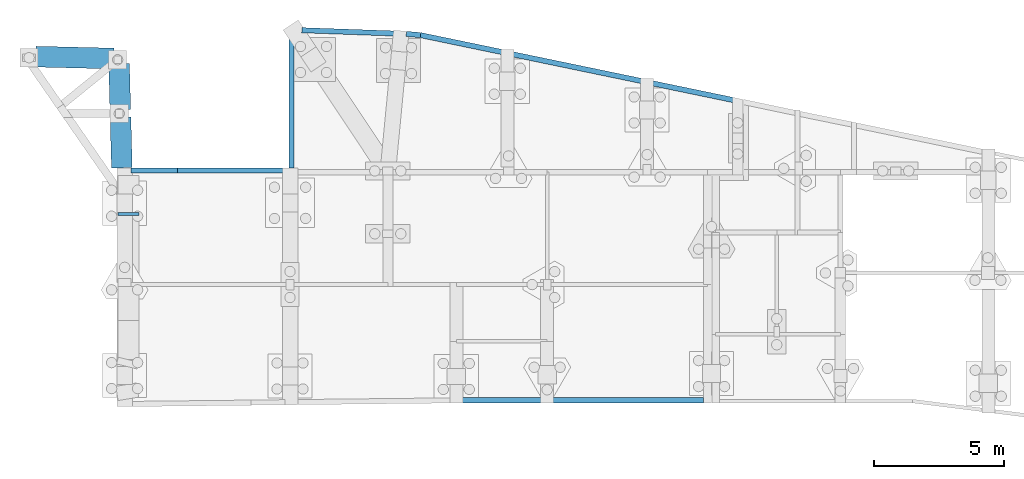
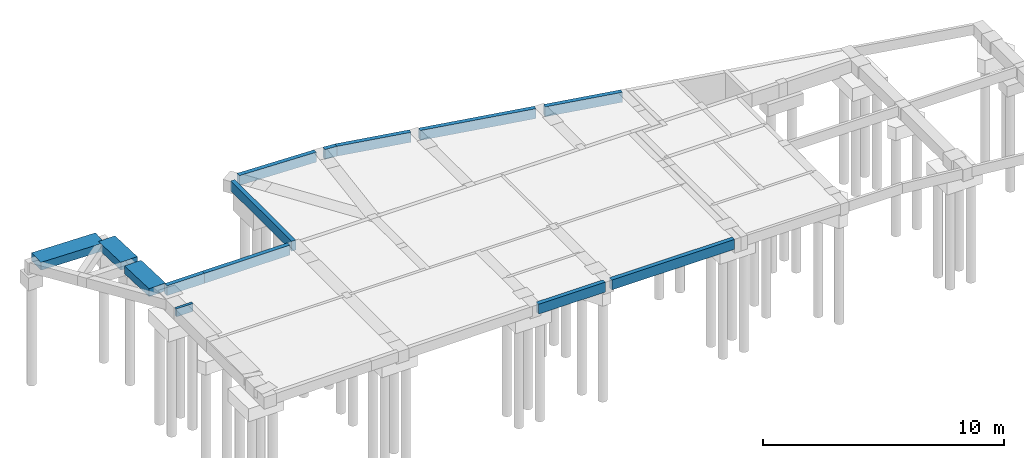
# One storey, part 4 of 5: 14 walls.
"""IFC4 building model written with IfcOpenShell, lengths in centimetres."""

from ifc_helpers import new_model, si_unit, derived_unit, frame, origin, origin_with_axes, origin_2d_with_axis, place, context, project, spatial, rectangle, extrude, material, element, save


model = new_model("IFC4")

# Units and contexts
model_context = context("Model", 3, precision=1e-05, world=origin_with_axes(), identifier="Body")
ifc_project = project(units=[si_unit("LENGTHUNIT", "METRE", prefix="CENTI"), si_unit("VOLUMEUNIT", "CUBIC_METRE"), si_unit("AREAUNIT", "SQUARE_METRE"), si_unit("POWERUNIT", "WATT"), si_unit("LUMINOUSFLUXUNIT", "LUMEN"), si_unit("ELECTRICCURRENTUNIT", "AMPERE"), si_unit("PRESSUREUNIT", "PASCAL", prefix="KILO"), si_unit("MASSUNIT", "GRAM", prefix="KILO"), si_unit("PLANEANGLEUNIT", "RADIAN"), derived_unit("VOLUMETRICFLOWRATEUNIT", [(si_unit("LENGTHUNIT", "METRE"), 3), (si_unit("TIMEUNIT", "SECOND"), -1)])], contexts=[model_context])

# Site, building, storey
site_placement = place(None, origin_with_axes())
site = spatial("IfcSite", under=ifc_project, at=site_placement)
building_placement = place(site_placement, origin())
building = spatial("IfcBuilding", under=site, at=building_placement)
storey_placement = place(building_placement, origin_with_axes())
storey = spatial("IfcBuildingStorey", under=building, at=storey_placement, Name="PÁTIO", CompositionType="ELEMENT", Elevation=0.0)

# Walls
ifc_material = material(Name="Concreto")
wall_1_placement = place(storey_placement, frame((1255.98, 84.5, 0.0), z_axis=(0.0, 0.0, 1.0), x_axis=(1.0, 0.0, 0.0)))
element("IfcWall", 1, at=wall_1_placement, inside=storey, material=ifc_material, Name="PAR1", PredefinedType="SHEAR", context=model_context, shape_type="SweptSolid", body=[
    extrude(rectangle(XDim=20.0, YDim=50.0, at=origin_2d_with_axis()), frame((181.02, -6.42, -25.0), z_axis=(-0.999371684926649, 0.035443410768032, 0.0), x_axis=(0.035443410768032, 0.999371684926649, 0.0)), (0.0, 0.0, 1.0), 362.26761820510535),
])
wall_2_placement = place(storey_placement, frame((2587.67, -147.23, 0.0), z_axis=(0.0, 0.0, 1.0), x_axis=(1.0, 0.0, 0.0)))
element("IfcWall", 2, at=wall_2_placement, inside=storey, material=ifc_material, Name="PAR10-A", PredefinedType="SHEAR", context=model_context, shape_type="SweptSolid", body=[
    extrude(rectangle(XDim=20.0, YDim=50.0, at=origin_2d_with_axis()), frame((165.33, -34.33, -25.0), z_axis=(-0.979114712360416, 0.203308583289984, 0.0), x_axis=(0.203308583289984, 0.979114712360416, 0.0)), (0.0, 0.0, 1.0), 337.71323811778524),
])
wall_3_placement = place(storey_placement, frame((2136.08, -53.46, 0.0), z_axis=(0.0, 0.0, 1.0), x_axis=(1.0, 0.0, 0.0)))
element("IfcWall", 3, at=wall_3_placement, inside=storey, material=ifc_material, Name="PAR10-B", PredefinedType="SHEAR", context=model_context, shape_type="SweptSolid", body=[
    extrude(rectangle(XDim=20.0, YDim=50.0, at=origin_2d_with_axis()), frame((247.1, -51.31, -25.0), z_axis=(-0.979114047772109, 0.203311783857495, 0.0), x_axis=(0.203311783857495, 0.979114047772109, 0.0)), (0.0, 0.0, 1.0), 504.7420176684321),
])
wall_4_placement = place(storey_placement, frame((1690.695, 39.02, 0.0), z_axis=(0.0, 0.0, 1.0), x_axis=(1.0, 0.0, 0.0)))
element("IfcWall", 4, at=wall_4_placement, inside=storey, material=ifc_material, Name="PAR10-C", PredefinedType="SHEAR", context=model_context, shape_type="SweptSolid", body=[
    extrude(rectangle(XDim=20.0, YDim=50.0, at=origin_2d_with_axis()), frame((159.125, -33.04, -25.0), z_axis=(-0.979116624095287, 0.203299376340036, 0.0), x_axis=(0.203299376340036, 0.979116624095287, 0.0)), (0.0, 0.0, 1.0), 325.0378884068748),
])
wall_5_placement = place(storey_placement, frame((1504.3, 74.36, 0.0), z_axis=(0.0, 0.0, 1.0), x_axis=(1.0, 0.0, 0.0)))
element("IfcWall", 5, at=wall_5_placement, inside=storey, material=ifc_material, Name="PAR10-D", PredefinedType="SHEAR", context=model_context, shape_type="SweptSolid", body=[
    extrude(rectangle(XDim=20.0, YDim=50.0, at=origin_2d_with_axis()), frame((27.27, -2.3, -25.0), z_axis=(-0.996462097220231, 0.08404337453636, 0.0), x_axis=(0.08404337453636, 0.996462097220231, 0.0)), (0.0, 0.0, 1.0), 54.73364230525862),
])
wall_6_placement = place(storey_placement, frame((200.46769530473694, -14.444911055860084, 0.0), z_axis=(0.0, 0.0, 1.0), x_axis=(1.0, 0.0, 0.0)))
element("IfcWall", 6, at=wall_6_placement, inside=storey, material=ifc_material, Name="PAR2", PredefinedType="SHEAR", context=model_context, shape_type="SweptSolid", body=[
    extrude(rectangle(XDim=80.0, YDim=40.0, at=origin_2d_with_axis()), frame((-150.475, 3.665, -20.0), z_axis=(0.999703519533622, -0.024348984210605, 0.0), x_axis=(0.024348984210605, 0.999703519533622, 0.0)), (0.0, 0.0, 1.0), 301.0392522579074),
])
wall_7_placement = place(storey_placement, frame((800.75, -448.8, 0.0), z_axis=(0.0, 0.0, 1.0), x_axis=(1.0, 0.0, 0.0)))
element("IfcWall", 7, at=wall_7_placement, inside=storey, material=ifc_material, Name="PAR3-A", PredefinedType="SHEAR", context=model_context, shape_type="SweptSolid", body=[
    extrude(rectangle(XDim=20.0, YDim=50.0, at=origin_2d_with_axis()), frame((204.25, 0.0, -25.0), z_axis=(-1.0, 0.0, 0.0), x_axis=(0.0, 1.0, 0.0)), (0.0, 0.0, 1.0), 408.5),
])
wall_8_placement = place(storey_placement, frame((507.125, -448.8, 0.0), z_axis=(0.0, 0.0, 1.0), x_axis=(1.0, 0.0, 0.0)))
element("IfcWall", 8, at=wall_8_placement, inside=storey, material=ifc_material, Name="PAR3-B", PredefinedType="SHEAR", context=model_context, shape_type="SweptSolid", body=[
    extrude(rectangle(XDim=20.0, YDim=50.0, at=origin_2d_with_axis()), frame((89.375, 0.0, -25.0), z_axis=(-1.0, 0.0, 0.0), x_axis=(0.0, -1.0, 0.0)), (0.0, 0.0, 1.0), 178.75),
])
wall_9_placement = place(storey_placement, frame((1844.6, -1334.1, 0.0), z_axis=(0.0, 0.0, 1.0), x_axis=(1.0, 0.0, 0.0)))
element("IfcWall", 9, at=wall_9_placement, inside=storey, material=ifc_material, Name="PAR5-A", PredefinedType="SHEAR", context=model_context, shape_type="SweptSolid", body=[
    extrude(rectangle(XDim=20.0, YDim=50.0, at=origin_2d_with_axis()), frame((-160.0, 0.0, -25.0), z_axis=(1.0, 0.0, 0.0), x_axis=(0.0, -1.0, 0.0)), (0.0, 0.0, 1.0), 320.0),
])
wall_10_placement = place(storey_placement, frame((2328.1, -1334.1, 0.0), z_axis=(0.0, 0.0, 1.0), x_axis=(1.0, 0.0, 0.0)))
element("IfcWall", 10, at=wall_10_placement, inside=storey, material=ifc_material, Name="PAR5-B", PredefinedType="SHEAR", context=model_context, shape_type="SweptSolid", body=[
    extrude(rectangle(XDim=20.0, YDim=50.0, at=origin_2d_with_axis()), frame((-293.5, 0.0, -25.0), z_axis=(1.0, 0.0, 0.0), x_axis=(0.0, -1.0, 0.0)), (0.0, 0.0, 1.0), 587.0),
])
wall_11_placement = place(storey_placement, frame((407.45, -616.575, 0.0), z_axis=(0.0, 0.0, 1.0), x_axis=(1.0, 0.0, 0.0)))
element("IfcWall", 11, at=wall_11_placement, inside=storey, material=ifc_material, Name="PAR7-B", PredefinedType="SHEAR", context=model_context, shape_type="SweptSolid", body=[
    extrude(rectangle(XDim=80.0, YDim=40.0, at=origin_2d_with_axis()), frame((0.0, 6.275, -20.0), z_axis=(0.0, -1.0, 0.0), x_axis=(1.0, 0.0, 0.0)), (0.0, 0.0, 1.0), 12.55),
])
wall_12_placement = place(storey_placement, frame((373.8151068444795, -126.39800595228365, 0.0), z_axis=(0.0, 0.0, 1.0), x_axis=(1.0, 0.0, 0.0)))
element("IfcWall", 12, at=wall_12_placement, inside=storey, material=ifc_material, Name="PAR8-A", PredefinedType="SHEAR", context=model_context, shape_type="SweptSolid", body=[
    extrude(rectangle(XDim=80.0, YDim=40.0, at=origin_2d_with_axis()), frame((-2.365, 88.59, -20.0), z_axis=(0.026686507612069, -0.999643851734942, 0.0), x_axis=(0.999643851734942, 0.026686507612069, 0.0)), (0.0, 0.0, 1.0), 177.24312483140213),
])
wall_13_placement = place(storey_placement, frame((379.58510749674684, -341.8980303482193, 0.0), z_axis=(0.0, 0.0, 1.0), x_axis=(1.0, 0.0, 0.0)))
element("IfcWall", 13, at=wall_13_placement, inside=storey, material=ifc_material, Name="PAR8-B", PredefinedType="SHEAR", context=model_context, shape_type="SweptSolid", body=[
    extrude(rectangle(XDim=80.0, YDim=40.0, at=origin_2d_with_axis()), frame((-2.595, 96.91, -20.0), z_axis=(0.026767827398, -0.999641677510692, 0.0), x_axis=(0.999641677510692, 0.026767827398, 0.0)), (0.0, 0.0, 1.0), 193.88947495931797),
])
wall_14_placement = place(storey_placement, frame((1035.0, -186.265, 0.0), z_axis=(0.0, 0.0, 1.0), x_axis=(1.0, 0.0, 0.0)))
element("IfcWall", 14, at=wall_14_placement, inside=storey, material=ifc_material, Name="PAR9", PredefinedType="SHEAR", context=model_context, shape_type="SweptSolid", body=[
    extrude(rectangle(XDim=20.0, YDim=50.0, at=origin_2d_with_axis()), frame((0.0, 252.535, -25.0), z_axis=(0.0, -1.0, 0.0), x_axis=(1.0, 0.0, 0.0)), (0.0, 0.0, 1.0), 505.07),
])

save(model, "model.ifc")
